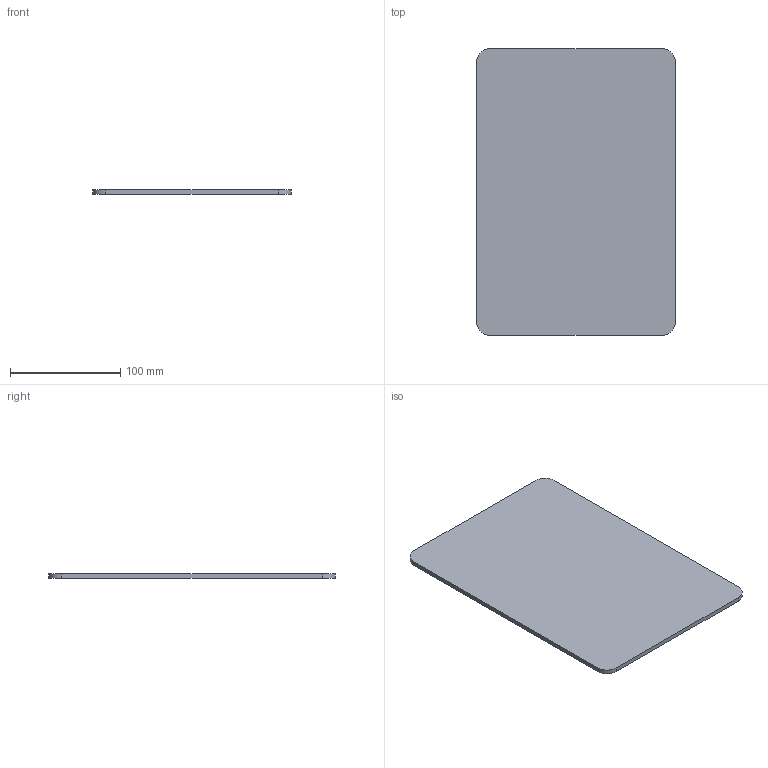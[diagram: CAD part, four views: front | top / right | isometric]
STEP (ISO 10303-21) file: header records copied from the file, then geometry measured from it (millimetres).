
FILE_DESCRIPTION(('Open CASCADE Model'),'2;1');
FILE_NAME('Open CASCADE Shape Model','2026-09-19T16:36:14',('Author'),( 'Open CASCADE'),'Open CASCADE STEP processor 7.8','Open CASCADE 7.8' ,'Unknown');
FILE_SCHEMA(('AUTOMOTIVE_DESIGN { 1 0 10303 214 1 1 1 1 }'));
Length unit declared in the file: millimetre
Products named in the file (1): Open CASCADE STEP translator 7.8 12
Bounding box: 180 x 260 x 4 mm (x, y, z)
Volume: 186705.6 mm3; surface area: 96790.4 mm2
Topology: 1 solids, 1 shells, 10 faces, 24 edges, 16 vertices
Faces by surface type: plane 6, cylinder 4
Entity records: 630 total; most frequent: CARTESIAN_POINT 123, DIRECTION 98, LINE 56, VECTOR 56, ORIENTED_EDGE 48, PCURVE 48, DEFINITIONAL_REPRESENTATION 48, EDGE_CURVE 24
